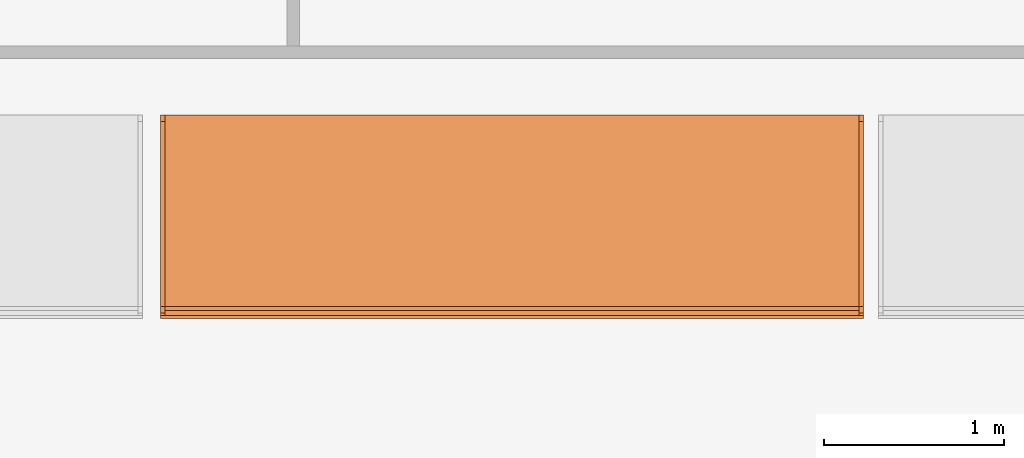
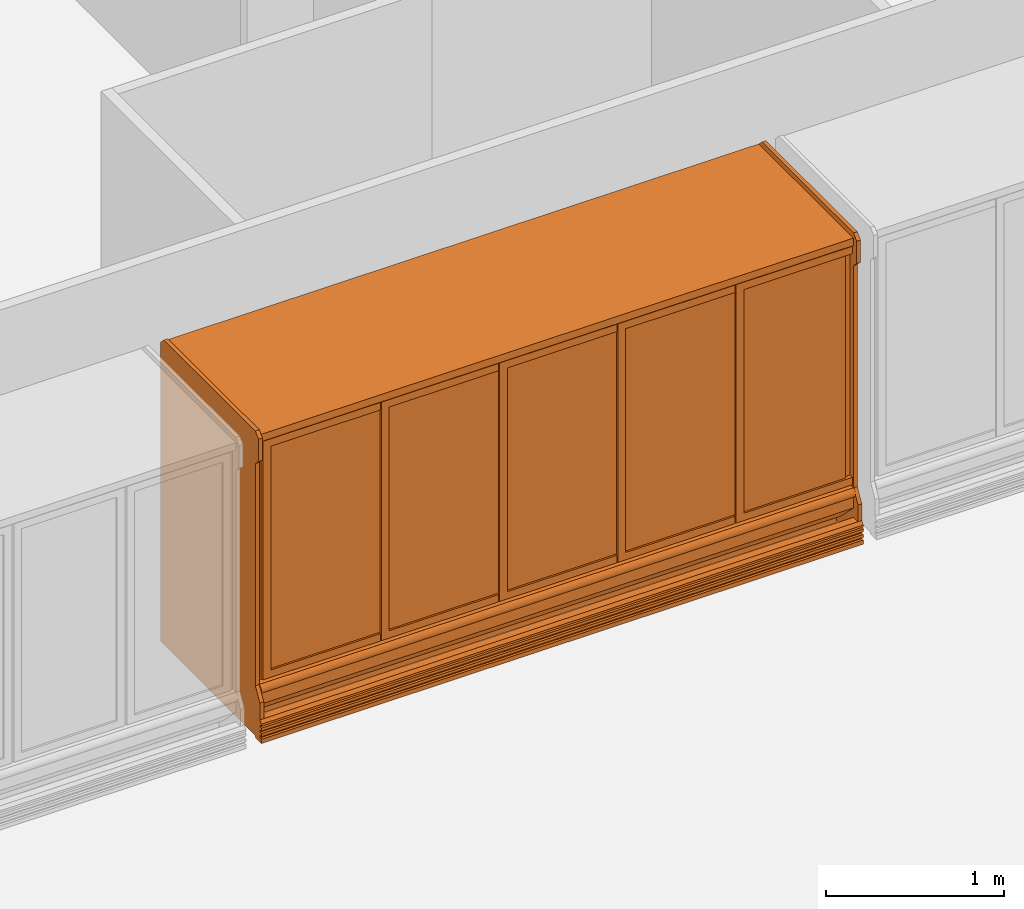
# One storey, part 9 of 11: 1 proxy.
"""IFC2X3 building model written with IfcOpenShell, lengths in metres."""

from ifc_helpers import new_model, entity, si_unit, converted_unit, derived_unit, direction, frame, frame_2d, origin, origin_2d_with_axis, place, context, subcontext, project, spatial, polyline, circle_curve, parameter, trimmed, segment, composite_curve, rectangle, outline, extrude, source, transform, mapped, material, material_list, type_object, type_shapes, element, save


model = new_model("IFC2X3")

# Units and contexts
model_context = context("Model", 3, precision=1e-05, world=origin(), true_north=direction((6.12303176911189e-17, 1.0)))
body_context = subcontext(model_context, "Body", "Model", "MODEL_VIEW")
ifc_project = project(units=[si_unit("LENGTHUNIT", "METRE"), si_unit("AREAUNIT", "SQUARE_METRE"), si_unit("VOLUMEUNIT", "CUBIC_METRE"), converted_unit("PLANEANGLEUNIT", "DEGREE", entity("IfcRatioMeasure", 0.0174532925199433), si_unit("PLANEANGLEUNIT", "RADIAN"), dimensions=[0, 0, 0, 0, 0, 0, 0]), si_unit("MASSUNIT", "GRAM", prefix="KILO"), derived_unit("MASSDENSITYUNIT", [(si_unit("MASSUNIT", "GRAM", prefix="KILO"), 1), (si_unit("LENGTHUNIT", "METRE"), -3)]), si_unit("TIMEUNIT", "SECOND"), si_unit("FREQUENCYUNIT", "HERTZ"), si_unit("THERMODYNAMICTEMPERATUREUNIT", "DEGREE_CELSIUS"), derived_unit("THERMALTRANSMITTANCEUNIT", [(si_unit("MASSUNIT", "GRAM", prefix="KILO"), 1), (si_unit("THERMODYNAMICTEMPERATUREUNIT", "KELVIN"), -1), (si_unit("TIMEUNIT", "SECOND"), -3)]), derived_unit("VOLUMETRICFLOWRATEUNIT", [(si_unit("LENGTHUNIT", "METRE"), 3), (si_unit("TIMEUNIT", "SECOND"), -1)]), si_unit("ELECTRICCURRENTUNIT", "AMPERE"), si_unit("ELECTRICVOLTAGEUNIT", "VOLT"), si_unit("POWERUNIT", "WATT"), si_unit("FORCEUNIT", "NEWTON", prefix="KILO"), si_unit("ILLUMINANCEUNIT", "LUX"), si_unit("LUMINOUSFLUXUNIT", "LUMEN"), si_unit("LUMINOUSINTENSITYUNIT", "CANDELA"), derived_unit("USERDEFINED", [(si_unit("MASSUNIT", "GRAM", prefix="KILO"), -1), (si_unit("LENGTHUNIT", "METRE"), -2), (si_unit("TIMEUNIT", "SECOND"), 3), (si_unit("LUMINOUSFLUXUNIT", "LUMEN"), 1)]), derived_unit("LINEARVELOCITYUNIT", [(si_unit("LENGTHUNIT", "METRE"), 1), (si_unit("TIMEUNIT", "SECOND"), -1)]), si_unit("PRESSUREUNIT", "PASCAL"), derived_unit("USERDEFINED", [(si_unit("LENGTHUNIT", "METRE"), -2), (si_unit("MASSUNIT", "GRAM", prefix="KILO"), 1), (si_unit("TIMEUNIT", "SECOND"), -2)])], contexts=[model_context])

# Site, building, storey
site_placement = place(None, origin())
site = spatial("IfcSite", under=ifc_project, at=site_placement, Name="Default", CompositionType="ELEMENT")
building_placement = place(site_placement, origin())
building = spatial("IfcBuilding", under=site, at=building_placement, CompositionType="ELEMENT")
storey_placement = place(building_placement, frame((0.0, 0.0, 1.49233632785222)))
storey = spatial("IfcBuildingStorey", under=building, at=storey_placement, Name="Niveau 0", CompositionType="ELEMENT", Elevation=1.49233632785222)

# Proxy
ifc_material_1 = material(Name="Métal - Chrome")
ifc_material_2 = material(Name="Verre")
ifc_material_3 = material(Name="Peinture - Blanc")
ifc_material_4 = material(Name="Peinture - Gris foncé")
ifc_material_list_1 = material_list([ifc_material_1, ifc_material_2, ifc_material_3, ifc_material_4])
ifc_material_list_2 = material_list([ifc_material_1, ifc_material_2, ifc_material_3, ifc_material_4])
building_element_proxy_type = type_object("IfcBuildingElementProxyType", Name="Longueur 3910 mm", PredefinedType="NOTDEFINED", material=ifc_material_list_2)
shared_shape = source(origin(), body_context, "Body", "SweptSolid", [
    extrude(outline(polyline([(-0.3937, -0.819150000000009), (0.3683, -0.819150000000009), (0.3683, -0.768350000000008), (-0.3429, -0.768350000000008), (-0.3429, 0.768350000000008), (0.3683, 0.768350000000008), (0.3683, 0.819150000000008), (-0.3937, 0.819150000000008), (-0.3937, -0.819150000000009)])), frame((0.211931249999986, 0.0126999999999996, 1.18745000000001), z_axis=(0.0, 1.0, 0.0), x_axis=(1.0, 0.0, 0.0)), (0.0, 0.0, 1.0), 0.0253999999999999),
    extrude(outline(polyline([(-0.3937, -0.819150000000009), (0.3683, -0.819150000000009), (0.3683, -0.768350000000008), (-0.3429, -0.768350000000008), (-0.3429, 0.768350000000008), (0.3683, 0.768350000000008), (0.3683, 0.819150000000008), (-0.3937, 0.819150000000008), (-0.3937, -0.819150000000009)])), frame((-0.556418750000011, 0.0126999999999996, 1.18745000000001), z_axis=(0.0, 1.0, 0.0), x_axis=(1.0, 0.0, 0.0)), (0.0, 0.0, 1.0), 0.0253999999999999),
    extrude(outline(polyline([(-0.3937, -0.819150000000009), (0.3683, -0.819150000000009), (0.3683, -0.768350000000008), (-0.3429, -0.768350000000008), (-0.3429, 0.768350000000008), (0.3683, 0.768350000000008), (0.3683, 0.819150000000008), (-0.3937, 0.819150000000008), (-0.3937, -0.819150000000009)])), frame((-1.32476875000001, 0.0126999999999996, 1.18745000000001), z_axis=(0.0, 1.0, 0.0), x_axis=(1.0, 0.0, 0.0)), (0.0, 0.0, 1.0), 0.0253999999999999),
    extrude(outline(polyline([(-0.3937, -0.819150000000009), (0.3683, -0.819150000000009), (0.3683, -0.768350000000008), (-0.3429, -0.768350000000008), (-0.3429, 0.768350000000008), (0.3683, 0.768350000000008), (0.3683, 0.819150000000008), (-0.3937, 0.819150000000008), (-0.3937, -0.819150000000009)])), frame((-2.09311875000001, 0.0126999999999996, 1.18745000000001), z_axis=(0.0, 1.0, 0.0), x_axis=(1.0, 0.0, 0.0)), (0.0, 0.0, 1.0), 0.0253999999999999),
    extrude(outline(polyline([(-0.902820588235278, -0.201945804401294), (-0.902820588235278, -0.214645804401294), (0.82437941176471, -0.214645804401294), (0.82437941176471, -0.201945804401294), (0.608479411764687, -0.201945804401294), (0.608479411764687, -0.0898341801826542), (0.589429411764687, -0.070784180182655), (0.589429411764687, 0.303324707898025), (0.570379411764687, 0.312207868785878), (0.570379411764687, -0.201945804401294), (0.316379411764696, -0.201945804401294), (0.316379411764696, -0.0851023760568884), (0.297329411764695, -0.0660523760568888), (0.297329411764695, 0.303324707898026), (0.278279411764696, 0.312207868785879), (0.278279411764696, -0.201945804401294), (0.0242794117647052, -0.201945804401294), (0.0242794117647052, -0.0803705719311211), (0.00522941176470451, -0.0613205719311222), (0.00522941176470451, 0.391796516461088), (-0.0138205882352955, 0.40067967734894), (-0.0138205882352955, -0.201945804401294), (-0.267820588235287, -0.201945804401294), (-0.267820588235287, -0.0851023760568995), (-0.286870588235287, -0.0660523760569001), (-0.286870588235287, 0.391796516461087), (-0.305920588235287, 0.400679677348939), (-0.305920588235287, -0.201945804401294), (-0.559920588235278, -0.201945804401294), (-0.559920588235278, -0.0803705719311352), (-0.578970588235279, -0.0613205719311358), (-0.578970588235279, 0.387979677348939), (-0.598020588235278, 0.394954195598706), (-0.598020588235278, -0.201945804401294), (-0.902820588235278, -0.201945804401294)])), frame((-2.10542815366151, 0.69975419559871, 1.12917941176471), z_axis=(-1.0, 0.0, 0.0), x_axis=(0.0, 0.0, -1.0)), (0.0, 0.0, -1.0), 0.0119188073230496),
    extrude(outline(polyline([(-0.902820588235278, -0.201945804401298), (-0.902820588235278, -0.214645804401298), (0.82437941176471, -0.214645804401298), (0.82437941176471, -0.201945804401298), (0.608479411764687, -0.201945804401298), (0.608479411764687, -0.089834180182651), (0.589429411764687, -0.0707841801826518), (0.589429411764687, 0.303324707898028), (0.570379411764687, 0.312207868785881), (0.570379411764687, -0.201945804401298), (0.316379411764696, -0.201945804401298), (0.316379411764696, -0.0851023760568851), (0.297329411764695, -0.0660523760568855), (0.297329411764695, 0.303324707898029), (0.278279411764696, 0.312207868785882), (0.278279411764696, -0.201945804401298), (0.0242794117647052, -0.201945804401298), (0.0242794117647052, -0.0803705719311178), (0.00522941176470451, -0.0613205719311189), (0.00522941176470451, 0.391796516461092), (-0.0138205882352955, 0.400679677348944), (-0.0138205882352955, -0.201945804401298), (-0.267820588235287, -0.201945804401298), (-0.267820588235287, -0.0851023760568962), (-0.286870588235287, -0.0660523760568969), (-0.286870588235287, 0.39179651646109), (-0.305920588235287, 0.400679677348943), (-0.305920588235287, -0.201945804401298), (-0.559920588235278, -0.201945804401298), (-0.559920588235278, -0.0803705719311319), (-0.578970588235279, -0.0613205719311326), (-0.578970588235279, 0.387979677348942), (-0.598020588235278, 0.394954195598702), (-0.598020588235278, -0.201945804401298), (-0.902820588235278, -0.201945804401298)])), frame((-0.556028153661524, 0.699754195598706, 1.12917941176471), z_axis=(-1.0, 0.0, 0.0), x_axis=(0.0, 0.0, -1.0)), (0.0, 0.0, -1.0), 0.0119188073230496),
    extrude(outline(polyline([(-0.3937, -0.819150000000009), (0.3683, -0.819150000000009), (0.3683, -0.768350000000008), (-0.3429, -0.768350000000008), (-0.3429, 0.768350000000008), (0.3683, 0.768350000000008), (0.3683, 0.819150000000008), (-0.3937, 0.819150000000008), (-0.3937, -0.819150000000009)])), frame((-2.86146875, 0.0126999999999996, 1.18745000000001), z_axis=(0.0, 1.0, 0.0), x_axis=(1.0, 0.0, 0.0)), (0.0, 0.0, 1.0), 0.0253999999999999),
    extrude(rectangle(XDim=0.00634999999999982, YDim=2.20345000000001, at=frame_2d((-2.16840434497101e-18, 0.0), x_axis=(1.0, 0.0))), frame((-0.565943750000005, 0.0285749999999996, 0.419100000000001), z_axis=(0.0, 0.0, 1.0), x_axis=(0.0, 1.0, 0.0)), (0.0, 0.0, 1.0), 1.53670000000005),
    extrude(rectangle(XDim=0.00634999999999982, YDim=1.49224999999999, at=frame_2d((-2.16840434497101e-18, -1.11022302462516e-16), x_axis=(1.0, 0.0))), frame((-2.46459375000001, 0.0285749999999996, 0.4191), z_axis=(0.0, 0.0, 1.0), x_axis=(0.0, 1.0, 0.0)), (0.0, 0.0, 1.0), 1.53669999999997),
    extrude(outline(polyline([(-0.88265, -1.9304), (0.882649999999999, -1.9304), (0.88265, 1.9304), (-0.882649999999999, 1.9304), (-0.88265, -1.9304)]), holes=[polyline([(-0.806450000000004, -0.0190500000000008), (-0.806450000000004, 1.8923), (0.80645, 1.8923), (0.80645, -0.0190500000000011), (0.806449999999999, -1.8923), (-0.806450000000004, -1.8923), (-0.806450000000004, -0.0190500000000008)])]), frame((-1.35651875, 0.0380999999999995, 1.18745), z_axis=(0.0, 1.0, 0.0), x_axis=(0.0, 0.0, -1.0)), (0.0, 0.0, 1.0), 0.0381),
    extrude(outline(composite_curve([segment(trimmed(circle_curve(frame_2d((-0.0095885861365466, 0.0), x_axis=(1.0, 0.0)), 0.0327139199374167), [parameter(287.043889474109)], [parameter(72.9561105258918)], True, "PARAMETER"), True, "CONTINUOUS"), segment(polyline([(0.0, 0.0312771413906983), (0.0, -0.0312771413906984)]), True, "CONTINUOUS")], self_intersect=False)), frame((-3.28691875, 0.0, 0.324322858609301), z_axis=(1.0, 0.0, 0.0), x_axis=(0.0, -1.0, 0.0)), (0.0, 0.0, 1.0), 3.8608),
    extrude(outline(polyline([(-0.058322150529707, -0.045007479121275), (-0.0317412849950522, -0.045007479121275), (-0.0206789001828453, -0.0360006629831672), (-0.0312750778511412, -0.0229861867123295), (-0.0214265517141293, -0.0149676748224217), (-0.0108303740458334, -0.0279821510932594), (0.00394241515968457, -0.0159543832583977), (-0.00665376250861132, -0.00293990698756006), (0.00811902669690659, 0.0090878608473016), (0.0187152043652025, -0.00392661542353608), (0.0334879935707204, 0.00810115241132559), (0.0228918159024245, 0.0211156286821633), (0.0376646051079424, 0.0331433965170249), (0.0482607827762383, 0.0201289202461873), (0.0704563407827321, 0.0382001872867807), (0.0277861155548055, 0.0906087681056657), (-0.0903961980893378, -0.00561337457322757), (-0.058322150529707, -0.045007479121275)])), frame((-3.31231875, -0.052721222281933, 0.0787558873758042), z_axis=(1.0, 0.0, 0.0), x_axis=(0.0, -0.631378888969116, -0.775474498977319)), (0.0, 0.0, 1.0), 3.9116),
    extrude(outline(polyline([(-0.78162589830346, -1.01392662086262), (0.249253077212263, -1.01392662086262), (0.285174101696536, -0.978005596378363), (0.285174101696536, -0.825605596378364), (0.249253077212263, -0.789684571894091), (0.249253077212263, 0.736494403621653), (0.300053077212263, 0.824482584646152), (0.300053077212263, 0.939694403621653), (0.249253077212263, 0.939694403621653), (0.249253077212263, 1.07939440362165), (-0.817546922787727, 1.07939440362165), (-0.817546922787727, -0.978005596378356), (-0.78162589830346, -1.01392662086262)])), frame((0.573881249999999, 0.249253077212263, 1.09209440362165), z_axis=(1.0, 0.0, 0.0), x_axis=(0.0, -1.0, 0.0)), (0.0, 0.0, 1.0), 0.0253999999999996),
    extrude(outline(polyline([(-0.78162589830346, -1.01392662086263), (0.249253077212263, -1.01392662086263), (0.285174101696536, -0.97800559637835), (0.285174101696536, -0.825605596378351), (0.249253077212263, -0.789684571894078), (0.249253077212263, 0.736494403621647), (0.300053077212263, 0.824482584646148), (0.300053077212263, 0.939694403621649), (0.249253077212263, 0.939694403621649), (0.249253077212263, 1.07939440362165), (-0.817546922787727, 1.07939440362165), (-0.817546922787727, -0.97800559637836), (-0.78162589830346, -1.01392662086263)])), frame((-3.31231875, 0.249253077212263, 1.09209440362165), z_axis=(1.0, 0.0, 0.0), x_axis=(0.0, -1.0, 0.0)), (0.0, 0.0, 1.0), 0.0253999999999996),
    extrude(rectangle(XDim=3.8354, YDim=0.6096, at=origin_2d_with_axis()), frame((-1.35651875, 0.596900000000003, 0.558800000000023)), (0.0, 0.0, 1.0), 0.009525),
    extrude(rectangle(XDim=3.8354, YDim=0.6096, at=origin_2d_with_axis()), frame((-1.35651875, 0.596900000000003, 1.72719999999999)), (0.0, 0.0, 1.0), 0.009525),
    extrude(rectangle(XDim=3.8354, YDim=0.6096, at=origin_2d_with_axis()), frame((-1.35651875, 0.596900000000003, 1.4351)), (0.0, 0.0, 1.0), 0.009525),
    extrude(rectangle(XDim=3.8354, YDim=0.6096, at=frame_2d((0.0, -5.55111512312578e-17), x_axis=(1.0, 0.0))), frame((-1.35651875, 0.596900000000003, 1.14300000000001)), (0.0, 0.0, 1.0), 0.009525),
    extrude(rectangle(XDim=3.8354, YDim=0.6096, at=frame_2d((0.0, -5.55111512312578e-17), x_axis=(1.0, 0.0))), frame((-1.35651875, 0.596900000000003, 0.850900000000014)), (0.0, 0.0, 1.0), 0.009525),
    extrude(outline(polyline([(-0.902820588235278, -0.198746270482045), (-0.902820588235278, -0.211446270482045), (0.82437941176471, -0.211446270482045), (0.82437941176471, -0.198746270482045), (0.608479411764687, -0.198746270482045), (0.608479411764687, -0.0923601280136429), (0.589429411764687, -0.0733101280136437), (0.589429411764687, 0.300798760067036), (0.570379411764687, 0.309681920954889), (0.570379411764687, -0.198746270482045), (0.316379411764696, -0.198746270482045), (0.316379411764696, -0.0876283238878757), (0.297329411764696, -0.0685783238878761), (0.297329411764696, 0.300798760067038), (0.278279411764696, 0.309681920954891), (0.278279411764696, -0.198746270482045), (0.0242794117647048, -0.198746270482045), (0.0242794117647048, -0.082896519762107), (0.0052294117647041, -0.0638465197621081), (0.0052294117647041, 0.389270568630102), (-0.0138205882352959, 0.398153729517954), (-0.0138205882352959, -0.198746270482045), (-0.267820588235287, -0.198746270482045), (-0.267820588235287, -0.0876283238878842), (-0.286870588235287, -0.0685783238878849), (-0.286870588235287, 0.389270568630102), (-0.305920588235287, 0.398153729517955), (-0.305920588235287, -0.198746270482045), (-0.559920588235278, -0.198746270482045), (-0.559920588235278, -0.0828965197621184), (-0.578970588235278, -0.0638465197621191), (-0.578970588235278, 0.385453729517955), (-0.598020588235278, 0.398153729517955), (-0.598020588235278, -0.198746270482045), (-0.902820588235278, -0.198746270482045)])), frame((-1.36247815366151, 0.702953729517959, 1.12917941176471), z_axis=(-1.0, 0.0, 0.0), x_axis=(0.0, 0.0, -1.0)), (0.0, 0.0, -1.0), 0.0119188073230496),
    extrude(outline(polyline([(-0.902820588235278, -0.198746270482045), (-0.902820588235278, -0.211446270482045), (0.82437941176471, -0.211446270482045), (0.82437941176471, -0.198746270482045), (0.608479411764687, -0.198746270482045), (0.608479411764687, -0.0923601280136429), (0.589429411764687, -0.0733101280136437), (0.589429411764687, 0.300798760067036), (0.570379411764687, 0.309681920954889), (0.570379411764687, -0.198746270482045), (0.316379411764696, -0.198746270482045), (0.316379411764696, -0.0876283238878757), (0.297329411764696, -0.0685783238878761), (0.297329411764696, 0.300798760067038), (0.278279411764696, 0.309681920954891), (0.278279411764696, -0.198746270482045), (0.0242794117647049, -0.198746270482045), (0.0242794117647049, -0.082896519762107), (0.00522941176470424, -0.0638465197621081), (0.00522941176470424, 0.389270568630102), (-0.0138205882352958, 0.398153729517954), (-0.0138205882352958, -0.198746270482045), (-0.267820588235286, -0.198746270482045), (-0.267820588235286, -0.0876283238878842), (-0.286870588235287, -0.0685783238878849), (-0.286870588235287, 0.389270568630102), (-0.305920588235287, 0.398153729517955), (-0.305920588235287, -0.198746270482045), (-0.559920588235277, -0.198746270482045), (-0.559920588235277, -0.0828965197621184), (-0.578970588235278, -0.0638465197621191), (-0.578970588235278, 0.385453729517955), (-0.598020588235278, 0.398153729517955), (-0.598020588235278, -0.198746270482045), (-0.902820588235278, -0.198746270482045)])), frame((0.548481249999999, 0.702953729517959, 1.12917941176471), z_axis=(-1.0, 0.0, 0.0), x_axis=(0.0, 0.0, -1.0)), (0.0, 0.0, -1.0), 0.0126999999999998),
    extrude(outline(polyline([(-0.902820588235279, -0.198746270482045), (-0.902820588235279, -0.211446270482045), (0.824379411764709, -0.211446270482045), (0.824379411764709, -0.198746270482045), (0.608479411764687, -0.198746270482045), (0.608479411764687, -0.0923601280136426), (0.589429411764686, -0.0733101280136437), (0.589429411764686, 0.300798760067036), (0.570379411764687, 0.309681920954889), (0.570379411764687, -0.198746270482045), (0.316379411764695, -0.198746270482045), (0.316379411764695, -0.0876283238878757), (0.297329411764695, -0.0685783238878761), (0.297329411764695, 0.300798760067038), (0.278279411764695, 0.309681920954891), (0.278279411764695, -0.198746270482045), (0.0242794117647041, -0.198746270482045), (0.0242794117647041, -0.082896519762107), (0.00522941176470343, -0.0638465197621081), (0.00522941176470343, 0.389270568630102), (-0.0138205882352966, 0.398153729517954), (-0.0138205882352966, -0.198746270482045), (-0.267820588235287, -0.198746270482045), (-0.267820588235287, -0.0876283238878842), (-0.286870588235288, -0.0685783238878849), (-0.286870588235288, 0.389270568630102), (-0.305920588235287, 0.398153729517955), (-0.305920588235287, -0.198746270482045), (-0.559920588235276, -0.198746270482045), (-0.559920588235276, -0.0828965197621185), (-0.578970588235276, -0.0638465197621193), (-0.578970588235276, 0.385453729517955), (-0.598020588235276, 0.398153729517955), (-0.598020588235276, -0.198746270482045), (-0.902820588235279, -0.198746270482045)])), frame((-3.27421875, 0.702953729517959, 1.12917941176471), z_axis=(-1.0, 0.0, 0.0), x_axis=(0.0, 0.0, -1.0)), (0.0, 0.0, -1.0), 0.0127000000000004),
    extrude(outline(polyline([(-0.99836485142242, -0.344904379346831), (-0.947564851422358, -0.344904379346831), (-0.947564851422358, -0.192504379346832), (-0.960264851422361, -0.192504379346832), (-0.960264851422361, 0.569495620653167), (0.766935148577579, 0.569495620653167), (0.766935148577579, -0.306804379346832), (0.716135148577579, -0.306804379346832), (0.716135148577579, -0.344904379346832), (0.855178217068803, -0.344904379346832), (0.995535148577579, -0.204547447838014), (0.995535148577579, 0.721895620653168), (-0.99836485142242, 0.721895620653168), (-0.99836485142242, -0.344904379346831)])), frame((-3.28691875, 0.344904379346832, 1.07173514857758), z_axis=(1.0, 0.0, 0.0), x_axis=(0.0, 0.0, -1.0)), (0.0, 0.0, 1.0), 3.8608),
    extrude(rectangle(XDim=3.8608, YDim=0.85725, at=frame_2d((-3.33066907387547e-16, -5.55111512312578e-17), x_axis=(1.0, 0.0))), frame((-1.35651875, 0.619125, 0.0), z_axis=(0.0, 0.0, 1.0), x_axis=(-1.0, 0.0, 0.0)), (0.0, 0.0, 1.0), 0.0762),
])
type_shapes(building_element_proxy_type, [shared_shape])
proxy_placement = place(storey_placement, frame((26.5484984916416, -1.06468697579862, 0.0)))
element("IfcBuildingElementProxy", 1, at=proxy_placement, inside=storey, type_object=building_element_proxy_type, material=ifc_material_list_1, Name="Congélateur - Vertical cinq portes:Longueur 3910 mm", ObjectType="Congélateur - Vertical cinq portes:Longueur 3910 mm", context=body_context, shape_type="MappedRepresentation", body=[
    mapped(shared_shape, transform((0.0, 0.0, 0.0), scale=1.0)),
])

save(model, "model.ifc")
